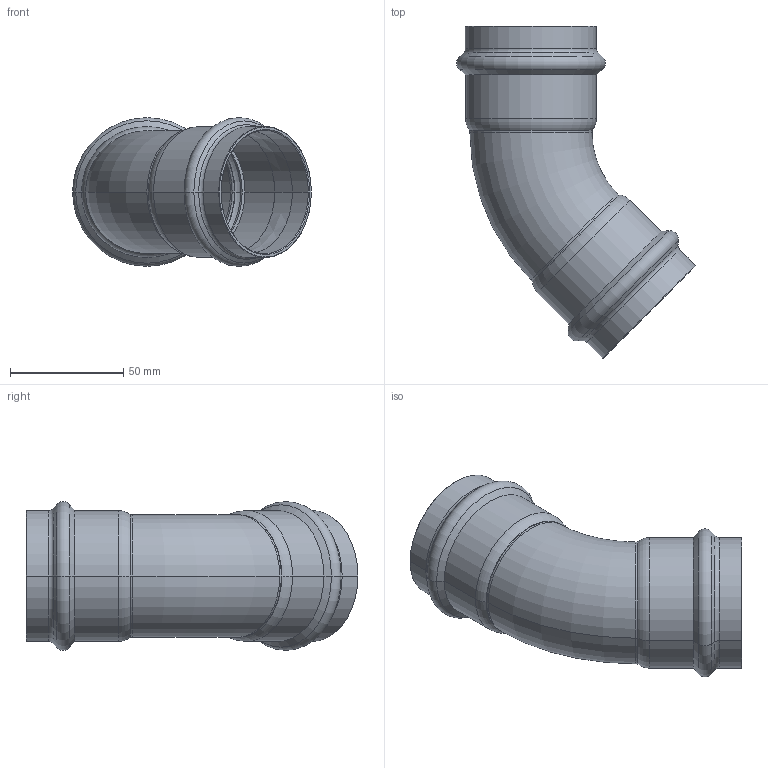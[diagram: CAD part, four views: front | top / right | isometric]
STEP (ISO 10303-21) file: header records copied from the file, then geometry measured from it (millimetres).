
FILE_DESCRIPTION(('CoCreate Modeling STEP Export'),'2;1');
FILE_NAME('8041VW54.stp','2013-01-29T14:34:51',(''),(''),'CoCreate Modeling STEP processor for AP214 (Solid Model)','CoCreate Modeling 17.00A 17-Jun-2010 (C) Parametric Technology GmbH','');
FILE_SCHEMA(('AUTOMOTIVE_DESIGN { 1 0 10303 214 1 1 1 1 }'));
Length unit declared in the file: millimetre
Products named in the file (1): 8041VW54
Bounding box: 105.49 x 146.64 x 65.68 mm (x, y, z)
Volume: 53293.4 mm3; surface area: 53237.4 mm2
Topology: 1 solids, 1 shells, 90 faces, 186 edges, 102 vertices
Faces by surface type: cylinder 28, torus 28, cone 28, plane 6
Entity records: 1928 total; most frequent: ORIENTED_EDGE 372, DIRECTION 310, CARTESIAN_POINT 285, EDGE_CURVE 186, AXIS2_PLACEMENT_3D 127, VERTEX_POINT 102, EDGE_LOOP 96, FACE_OUTER_BOUND 90
